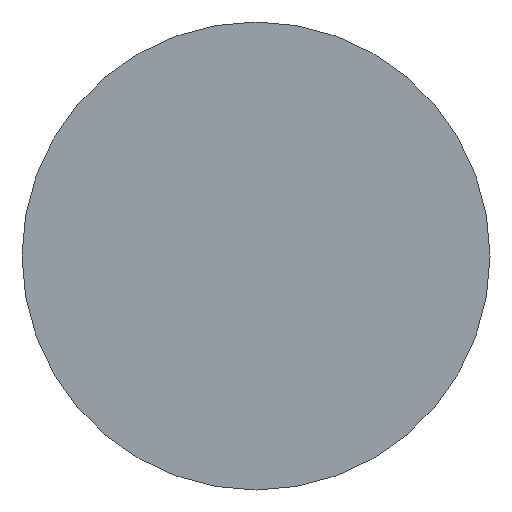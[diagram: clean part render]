
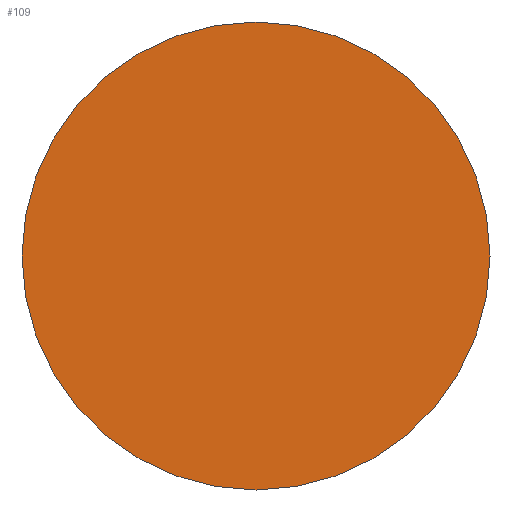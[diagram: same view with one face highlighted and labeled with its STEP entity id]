
A CAD part, front view. The second image highlights one B-rep face of the part: STEP entity #109.
In plain terms, the highlighted planar face has unit normal (0, -1, 0).
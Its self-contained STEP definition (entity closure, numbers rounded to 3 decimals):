
#31 = CYLINDRICAL_SURFACE('',#32,17.);
#32 = AXIS2_PLACEMENT_3D('',#33,#34,#35);
#33 = CARTESIAN_POINT('',(87.,-42.6,-95.263));
#34 = DIRECTION('',(0.,1.,0.));
#35 = DIRECTION('',(0.,-0.,1.));
#56 = VERTEX_POINT('',#57);
#57 = CARTESIAN_POINT('',(87.,-42.6,-78.263));
#78 = EDGE_CURVE('',#56,#56,#79,.T.);
#79 = SURFACE_CURVE('',#80,(#85,#92),.PCURVE_S1.);
#80 = CIRCLE('',#81,17.);
#81 = AXIS2_PLACEMENT_3D('',#82,#83,#84);
#82 = CARTESIAN_POINT('',(87.,-42.6,-95.263));
#83 = DIRECTION('',(0.,1.,0.));
#84 = DIRECTION('',(0.,-0.,1.));
#85 = PCURVE('',#31,#86);
#86 = DEFINITIONAL_REPRESENTATION('',(#87),#91);
#87 = LINE('',#88,#89);
#88 = CARTESIAN_POINT('',(0.,0.));
#89 = VECTOR('',#90,1.);
#90 = DIRECTION('',(1.,0.));
#91 = ( GEOMETRIC_REPRESENTATION_CONTEXT(2) 
PARAMETRIC_REPRESENTATION_CONTEXT() REPRESENTATION_CONTEXT('2D SPACE',''
  ) );
#92 = PCURVE('',#93,#98);
#93 = PLANE('',#94);
#94 = AXIS2_PLACEMENT_3D('',#95,#96,#97);
#95 = CARTESIAN_POINT('',(87.,-42.6,-95.263));
#96 = DIRECTION('',(0.,1.,0.));
#97 = DIRECTION('',(0.,-0.,1.));
#98 = DEFINITIONAL_REPRESENTATION('',(#99),#103);
#99 = CIRCLE('',#100,17.);
#100 = AXIS2_PLACEMENT_2D('',#101,#102);
#101 = CARTESIAN_POINT('',(0.,0.));
#102 = DIRECTION('',(1.,0.));
#103 = ( GEOMETRIC_REPRESENTATION_CONTEXT(2) 
PARAMETRIC_REPRESENTATION_CONTEXT() REPRESENTATION_CONTEXT('2D SPACE',''
  ) );
#109 = ADVANCED_FACE('',(#110),#93,.F.);
#110 = FACE_BOUND('',#111,.T.);
#111 = EDGE_LOOP('',(#112));
#112 = ORIENTED_EDGE('',*,*,#78,.F.);
